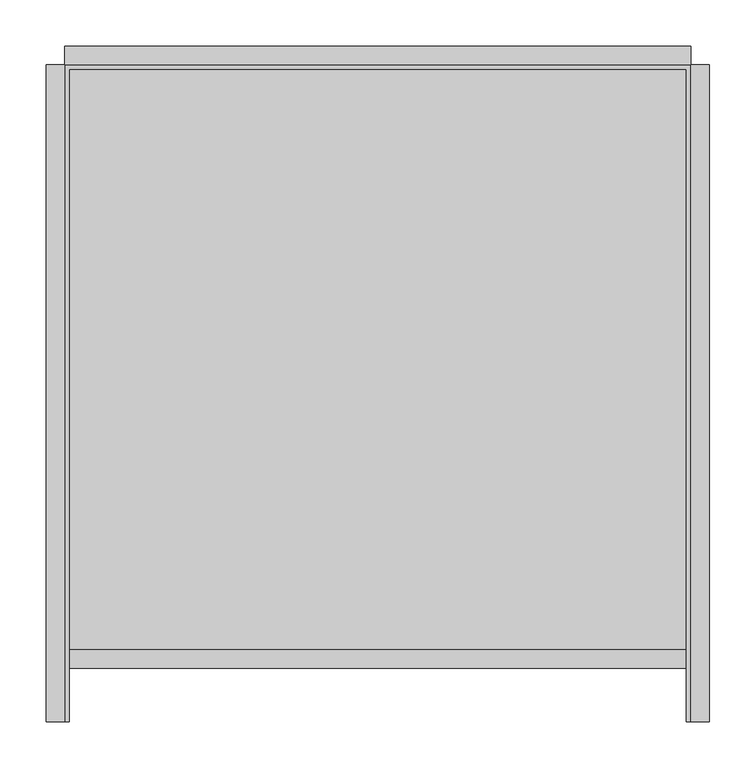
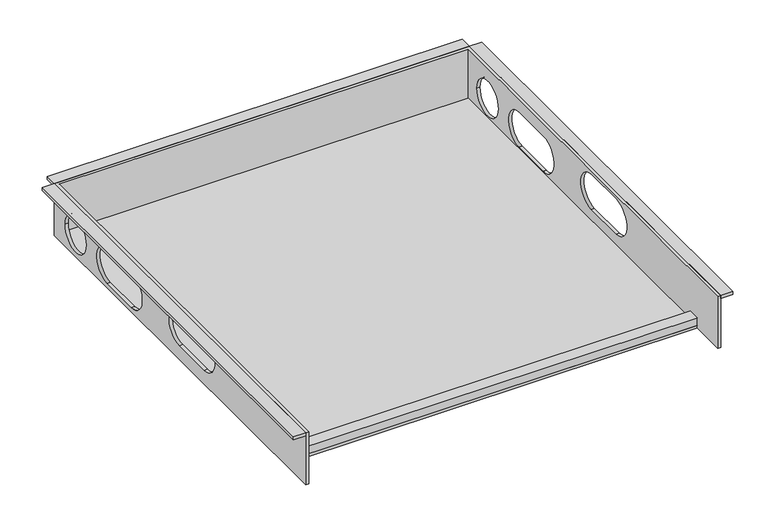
"""IFC4 building model written with IfcOpenShell, lengths in millimetres: valve geometry, Superpipe Manifold Cabinet Concealed Version : Superpipe Manifold Cabinet Concealed Version-6&7&8Way."""

from ifc_helpers import new_model, si_unit, frame, origin, place, context, project, spatial, polyline, circle_curve, outline, extrude, source, transform, mapped, element, save
from ifc_brep_helpers import plane_surface, revolved_surface, advanced_brep


def valve_ceda44c9(model_context):
    return source(origin(), model_context, "Body", "SolidModel", [
        extrude(outline(polyline([(-298.5, -72.0341988), (-278.5, -72.0341988), (-278.5, -77.0341988), (-293.5, -77.0341988), (-293.5, -85.0), (-298.5, -85.0), (-298.5, -72.0341988)])), frame((-335.0, 0.0, 0.0), z_axis=(1.0, 0.0, 0.0), x_axis=(0.0, 1.0, 0.0)), (0.0, 0.0, 1.0), 670.0),
        extrude(outline(polyline([(360.0, -356.5), (340.0, -356.5), (340.0, 356.5), (360.0, 356.5), (360.0, -356.5)])), frame((0.0, 0.0, -5.0), z_axis=(0.0, 0.0, 1.0), x_axis=(1.0, 0.0, 0.0)), (0.0, 0.0, 1.0), 5.0),
        extrude(outline(polyline([(-340.0, -356.5), (-360.0, -356.5), (-360.0, 356.5), (-340.0, 356.5), (-340.0, -356.5)])), frame((0.0, 0.0, -5.0), z_axis=(0.0, 0.0, 1.0), x_axis=(1.0, 0.0, 0.0)), (0.0, 0.0, 1.0), 5.0),
        extrude(outline(polyline([(340.0, 376.5), (340.0, 356.5), (-340.0, 356.5), (-340.0, 376.5), (340.0, 376.5)])), frame((0.0, 0.0, -5.0), z_axis=(0.0, 0.0, 1.0), x_axis=(1.0, 0.0, 0.0)), (0.0, 0.0, 1.0), 5.0),
        advanced_brep(
        [(340.0, 356.5, 0.0), (-340.0, 356.5, 0.0), (-340.0, -356.5, 0.0), (-335.0, -356.5, 0.0), (-335.0, 351.5, 0.0), (335.0, 351.5, 0.0), (335.0, -356.5, 0.0), (340.0, -356.5, 0.0), (340.0, 356.5, -90.0), (340.0, -356.5, -90.0), (335.0, -356.5, -90.0), (335.0, -298.5, -90.0), (-335.0, -298.5, -90.0), (-335.0, -356.5, -90.0), (-340.0, -356.5, -90.0), (-340.0, 356.5, -90.0), (-340.0, 266.5, -52.5), (-340.0, 326.5, -52.5), (-340.0, 138.0, -82.5), (-340.0, 206.5, -82.5), (-340.0, 206.5, -22.5), (-340.0, 138.0, -22.5), (-340.0, -68.5, -66.0), (-340.0, 1.5, -66.0), (-340.0, 1.5, -6.0), (-340.0, -68.5, -6.0), (340.0, 326.5, -52.5), (340.0, 266.5, -52.5), (340.0, 206.5, -82.5), (340.0, 138.0, -82.5), (340.0, 138.0, -22.5), (340.0, 206.5, -22.5), (340.0, 1.5, -66.0), (340.0, -68.5, -66.0), (340.0, -68.5, -6.0), (340.0, 1.5, -6.0), (335.0, 351.5, -85.0), (-335.0, 351.5, -85.0), (-335.0, -298.5, -85.0), (335.0, -298.5, -85.0), (-335.0, 326.5, -52.5), (-335.0, 266.5, -52.5), (-335.0, 206.5, -82.5), (-335.0, 138.0, -82.5), (-335.0, 138.0, -22.5), (-335.0, 206.5, -22.5), (-335.0, 1.5, -66.0), (-335.0, -68.5, -66.0), (-335.0, -68.5, -6.0), (-335.0, 1.5, -6.0), (335.0, 266.5, -52.5), (335.0, 326.5, -52.5), (335.0, 138.0, -82.5), (335.0, 206.5, -82.5), (335.0, 206.5, -22.5), (335.0, 138.0, -22.5), (335.0, -68.5, -66.0), (335.0, 1.5, -66.0), (335.0, 1.5, -6.0), (335.0, -68.5, -6.0)],
        [
            (0, 1),
            (1, 2),
            (2, 3),
            (3, 4),
            (4, 5),
            (5, 6),
            (6, 7),
            (7, 0),
            (8, 9),
            (9, 10),
            (10, 11),
            (11, 12),
            (12, 13),
            (13, 14),
            (14, 15),
            (15, 8),
            (0, 8),
            (15, 1),
            (14, 2),
            (16, 17, circle_curve(frame((-340.0, 296.5, -52.5), z_axis=(1.0, 0.0, 0.0), x_axis=(0.0, -1.0, 0.0)), 30.0)),
            (17, 16, circle_curve(frame((-340.0, 296.5, -52.5), z_axis=(1.0, 0.0, 0.0), x_axis=(0.0, -1.0, 0.0)), 30.0)),
            (18, 19),
            (19, 20, circle_curve(frame((-340.0, 206.5, -52.5), z_axis=(1.0, 0.0, 0.0), x_axis=(0.0, -1.0, 0.0)), 30.0)),
            (20, 21),
            (21, 18, circle_curve(frame((-340.0, 138.0, -52.5), z_axis=(1.0, 0.0, 0.0), x_axis=(0.0, -1.0, 0.0)), 30.0)),
            (22, 23),
            (23, 24, circle_curve(frame((-340.0, 1.5, -36.0), z_axis=(1.0, 0.0, 0.0), x_axis=(0.0, -1.0, 0.0)), 30.0)),
            (24, 25),
            (25, 22, circle_curve(frame((-340.0, -68.5, -36.0), z_axis=(1.0, 0.0, 0.0), x_axis=(0.0, -1.0, 0.0)), 30.0)),
            (13, 3),
            (9, 7),
            (6, 10),
            (26, 27, circle_curve(frame((340.0, 296.5, -52.5), z_axis=(-1.0, 0.0, 0.0), x_axis=(0.0, -1.0, 0.0)), 30.0)),
            (27, 26, circle_curve(frame((340.0, 296.5, -52.5), z_axis=(-1.0, 0.0, 0.0), x_axis=(0.0, -1.0, 0.0)), 30.0)),
            (28, 29),
            (29, 30, circle_curve(frame((340.0, 138.0, -52.5), z_axis=(-1.0, 0.0, 0.0), x_axis=(0.0, -1.0, 0.0)), 30.0)),
            (30, 31),
            (31, 28, circle_curve(frame((340.0, 206.5, -52.5), z_axis=(-1.0, 0.0, 0.0), x_axis=(0.0, -1.0, 0.0)), 30.0)),
            (32, 33),
            (33, 34, circle_curve(frame((340.0, -68.5, -36.0), z_axis=(-1.0, 0.0, 0.0), x_axis=(0.0, -1.0, 0.0)), 30.0)),
            (34, 35),
            (35, 32, circle_curve(frame((340.0, 1.5, -36.0), z_axis=(-1.0, 0.0, 0.0), x_axis=(0.0, -1.0, 0.0)), 30.0)),
            (36, 37),
            (37, 38),
            (38, 39),
            (39, 36),
            (36, 5),
            (4, 37),
            (12, 38),
            (40, 41, circle_curve(frame((-335.0, 296.5, -52.5), z_axis=(-1.0, 0.0, 0.0), x_axis=(0.0, -1.0, 0.0)), 30.0)),
            (41, 40, circle_curve(frame((-335.0, 296.5, -52.5), z_axis=(-1.0, 0.0, 0.0), x_axis=(0.0, -1.0, 0.0)), 30.0)),
            (42, 43),
            (43, 44, circle_curve(frame((-335.0, 138.0, -52.5), z_axis=(-1.0, 0.0, 0.0), x_axis=(0.0, -1.0, 0.0)), 30.0)),
            (44, 45),
            (45, 42, circle_curve(frame((-335.0, 206.5, -52.5), z_axis=(-1.0, 0.0, 0.0), x_axis=(0.0, -1.0, 0.0)), 30.0)),
            (46, 47),
            (47, 48, circle_curve(frame((-335.0, -68.5, -36.0), z_axis=(-1.0, 0.0, 0.0), x_axis=(0.0, -1.0, 0.0)), 30.0)),
            (48, 49),
            (49, 46, circle_curve(frame((-335.0, 1.5, -36.0), z_axis=(-1.0, 0.0, 0.0), x_axis=(0.0, -1.0, 0.0)), 30.0)),
            (39, 11),
            (50, 51, circle_curve(frame((335.0, 296.5, -52.5), z_axis=(1.0, 0.0, 0.0), x_axis=(0.0, -1.0, 0.0)), 30.0)),
            (51, 50, circle_curve(frame((335.0, 296.5, -52.5), z_axis=(1.0, 0.0, 0.0), x_axis=(0.0, -1.0, 0.0)), 30.0)),
            (52, 53),
            (53, 54, circle_curve(frame((335.0, 206.5, -52.5), z_axis=(1.0, 0.0, 0.0), x_axis=(0.0, -1.0, 0.0)), 30.0)),
            (54, 55),
            (55, 52, circle_curve(frame((335.0, 138.0, -52.5), z_axis=(1.0, 0.0, 0.0), x_axis=(0.0, -1.0, 0.0)), 30.0)),
            (56, 57),
            (57, 58, circle_curve(frame((335.0, 1.5, -36.0), z_axis=(1.0, 0.0, 0.0), x_axis=(0.0, -1.0, 0.0)), 30.0)),
            (58, 59),
            (59, 56, circle_curve(frame((335.0, -68.5, -36.0), z_axis=(1.0, 0.0, 0.0), x_axis=(0.0, -1.0, 0.0)), 30.0)),
            (40, 17),
            (16, 41),
            (26, 51),
            (50, 27),
            (42, 19),
            (18, 43),
            (28, 53),
            (52, 29),
            (21, 44),
            (55, 30),
            (20, 45),
            (54, 31),
            (46, 23),
            (22, 47),
            (32, 57),
            (56, 33),
            (25, 48),
            (59, 34),
            (24, 49),
            (58, 35),
        ],
        [
            plane_surface(frame((-340.0, 356.5, 0.0), z_axis=(0.0, 0.0, 1.0), x_axis=(-1.0, 0.0, 0.0))),
            plane_surface(frame((-340.0, 356.5, -90.0), z_axis=(0.0, 0.0, -1.0), x_axis=(1.0, 0.0, 0.0))),
            plane_surface(frame((340.0, 356.5, 0.0), z_axis=(0.0, 1.0, 0.0), x_axis=(0.0, 0.0, -1.0))),
            plane_surface(frame((-340.0, 356.5, 0.0), z_axis=(-1.0, 0.0, 0.0), x_axis=(0.0, 0.0, -1.0))),
            plane_surface(frame((-340.0, -356.5, 0.0), z_axis=(0.0, -1.0, 0.0), x_axis=(0.0, 0.0, -1.0))),
            plane_surface(frame((340.0, -356.5, 0.0), z_axis=(1.0, 0.0, 0.0), x_axis=(0.0, 0.0, -1.0))),
            plane_surface(frame((-335.0, 351.5, -85.0), z_axis=(0.0, 0.0, 1.0), x_axis=(1.0, 0.0, 0.0))),
            plane_surface(frame((335.0, 351.5, 0.0), z_axis=(0.0, -1.0, 0.0), x_axis=(0.0, 0.0, -1.0))),
            plane_surface(frame((-335.0, 351.5, 0.0), z_axis=(1.0, 0.0, 0.0), x_axis=(0.0, 0.0, -1.0))),
            plane_surface(frame((335.0, -356.5, 0.0), z_axis=(-1.0, 0.0, 0.0), x_axis=(0.0, 0.0, -1.0))),
            plane_surface(frame((335.0, -298.5, -85.0), z_axis=(0.0, -1.0, 0.0), x_axis=(0.0, 0.0, -1.0))),
            revolved_surface(polyline([(-340.0, 266.5, -52.5), (-335.0, 266.5, -52.5)]), (340.0, 296.5, -52.5), (-1.0, 0.0, 0.0)),
            revolved_surface(polyline([(335.0, 266.5, -52.5), (340.0, 266.5, -52.5)]), (340.0, 296.5, -52.5), (-1.0, 0.0, 0.0)),
            plane_surface(frame((-340.0, 206.5, -82.5), z_axis=(0.0, 0.0, 1.0), x_axis=(1.0, 0.0, 0.0))),
            revolved_surface(polyline([(-340.0, 108.0, -52.5), (-335.0, 108.0, -52.5)]), (-340.0, 138.0, -52.5), (-1.0, 0.0, 0.0)),
            revolved_surface(polyline([(335.0, 108.0, -52.5), (340.0, 108.0, -52.5)]), (-340.0, 138.0, -52.5), (-1.0, 0.0, 0.0)),
            plane_surface(frame((-340.0, 138.0, -22.5), z_axis=(0.0, 0.0, -1.0), x_axis=(1.0, 0.0, 0.0))),
            revolved_surface(polyline([(-340.0, 176.5, -52.5), (-335.0, 176.5, -52.5)]), (-340.0, 206.5, -52.5), (-1.0, 0.0, 0.0)),
            revolved_surface(polyline([(335.0, 176.5, -52.5), (340.0, 176.5, -52.5)]), (-340.0, 206.5, -52.5), (-1.0, 0.0, 0.0)),
            plane_surface(frame((-340.0, 1.5, -66.0), z_axis=(0.0, 0.0, 1.0), x_axis=(1.0, 0.0, 0.0))),
            revolved_surface(polyline([(-340.0, -98.5, -36.0), (-335.0, -98.5, -36.0)]), (-340.0, -68.5, -36.0), (-1.0, 0.0, 0.0)),
            revolved_surface(polyline([(335.0, -98.5, -36.0), (340.0, -98.5, -36.0)]), (-340.0, -68.5, -36.0), (-1.0, 0.0, 0.0)),
            plane_surface(frame((-340.0, -68.5, -6.0), z_axis=(0.0, 0.0, -1.0), x_axis=(1.0, 0.0, 0.0))),
            revolved_surface(polyline([(-340.0, -28.5, -36.0), (-335.0, -28.5, -36.0)]), (-340.0, 1.5, -36.0), (-1.0, 0.0, 0.0)),
            revolved_surface(polyline([(335.0, -28.5, -36.0), (340.0, -28.5, -36.0)]), (-340.0, 1.5, -36.0), (-1.0, 0.0, 0.0)),
        ],
        [
            (0, [[1, 2, 3, 4, 5, 6, 7, 8]]),
            (1, [[9, 10, 11, 12, 13, 14, 15, 16]]),
            (2, [[-1, 17, -16, 18]]),
            (3, [[-2, -18, -15, 19], [20, 21], [22, 23, 24, 25], [26, 27, 28, 29]]),
            (4, [[-19, -14, 30, -3]]),
            (4, [[31, -7, 32, -10]]),
            (5, [[-8, -31, -9, -17], [33, 34], [35, 36, 37, 38], [39, 40, 41, 42]]),
            (6, [[43, 44, 45, 46]]),
            (7, [[-43, 47, -5, 48]]),
            (8, [[-48, -4, -30, -13, 49, -44], [50, 51], [52, 53, 54, 55], [56, 57, 58, 59]]),
            (9, [[-47, -46, 60, -11, -32, -6], [61, 62], [63, 64, 65, 66], [67, 68, 69, 70]]),
            (10, [[-49, -12, -60, -45]]),
            (11, [[71, -20, 72, -50]]),
            (12, [[73, -61, 74, -33]]),
            (11, [[-71, -51, -72, -21]]),
            (12, [[-73, -34, -74, -62]]),
            (13, [[75, -22, 76, -52]]),
            (13, [[77, -63, 78, -35]]),
            (14, [[-76, -25, 79, -53]]),
            (15, [[-78, -66, 80, -36]]),
            (16, [[-79, -24, 81, -54]]),
            (16, [[-80, -65, 82, -37]]),
            (17, [[-75, -55, -81, -23]]),
            (18, [[-77, -38, -82, -64]]),
            (19, [[83, -26, 84, -56]]),
            (19, [[85, -67, 86, -39]]),
            (20, [[-84, -29, 87, -57]]),
            (21, [[-86, -70, 88, -40]]),
            (22, [[-87, -28, 89, -58]]),
            (22, [[-88, -69, 90, -41]]),
            (23, [[-83, -59, -89, -27]]),
            (24, [[-85, -42, -90, -68]]),
        ],
    ),
    ])


if __name__ == "__main__":
    model = new_model("IFC4")
    model_context = context("Model", 3, world=origin())
    ifc_project = project(units=[si_unit("LENGTHUNIT", "METRE", prefix="MILLI")], contexts=[model_context])
    site = spatial("IfcSite", under=ifc_project)
    building = spatial("IfcBuilding", under=site)
    placement = place(None, origin())
    valve_shape = valve_ceda44c9(model_context)
    element("IfcValve", 1, ObjectType="Superpipe Manifold Cabinet Concealed Version : Superpipe Manifold Cabinet Concealed Version-6&7&8Way", at=placement, inside=building, context=model_context, shape_type="MappedRepresentation", body=[
        mapped(valve_shape, transform((0.0, 0.0, 0.0), x_axis=(1.0, 0.0, 0.0), y_axis=(0.0, 1.0, 0.0), z_axis=(0.0, 0.0, 1.0))),
    ])
    save(model, "model.ifc")
